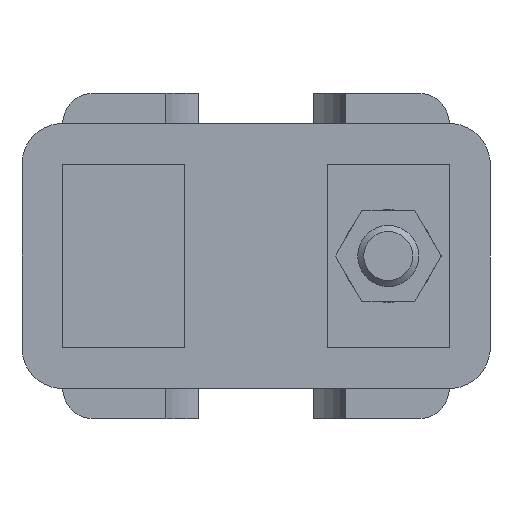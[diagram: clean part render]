
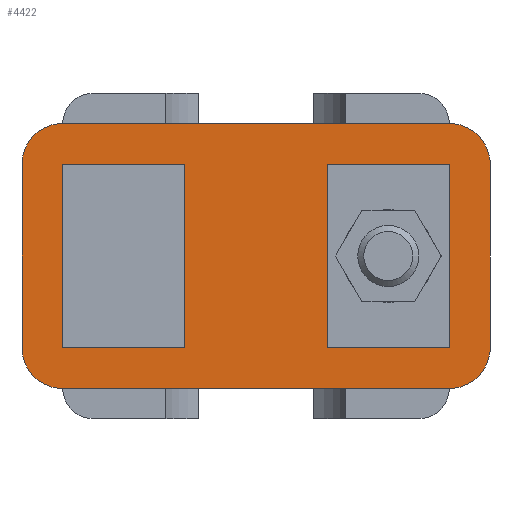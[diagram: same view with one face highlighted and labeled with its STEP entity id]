
A CAD part, front view. The second image highlights one B-rep face of the part: STEP entity #4422.
In plain terms, the highlighted planar face has unit normal (0, -1, 0).
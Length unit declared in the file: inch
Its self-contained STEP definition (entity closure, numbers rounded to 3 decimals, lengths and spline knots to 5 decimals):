
#123=CIRCLE('',#4711,0.25);
#124=CIRCLE('',#4712,0.25);
#125=CIRCLE('',#4713,0.25);
#126=CIRCLE('',#4714,0.25);
#274=ORIENTED_EDGE('',*,*,#1610,.F.);
#275=ORIENTED_EDGE('',*,*,#1611,.T.);
#276=ORIENTED_EDGE('',*,*,#1612,.F.);
#277=ORIENTED_EDGE('',*,*,#1613,.F.);
#278=ORIENTED_EDGE('',*,*,#1614,.F.);
#279=ORIENTED_EDGE('',*,*,#1615,.F.);
#280=ORIENTED_EDGE('',*,*,#1616,.F.);
#281=ORIENTED_EDGE('',*,*,#1617,.F.);
#282=ORIENTED_EDGE('',*,*,#1618,.T.);
#283=ORIENTED_EDGE('',*,*,#1619,.T.);
#284=ORIENTED_EDGE('',*,*,#1620,.F.);
#285=ORIENTED_EDGE('',*,*,#1621,.T.);
#286=ORIENTED_EDGE('',*,*,#1622,.F.);
#287=ORIENTED_EDGE('',*,*,#1623,.T.);
#288=ORIENTED_EDGE('',*,*,#1624,.T.);
#289=ORIENTED_EDGE('',*,*,#1625,.T.);
#1610=EDGE_CURVE('',#2278,#2279,#2727,.T.);
#1611=EDGE_CURVE('',#2278,#2280,#2728,.T.);
#1612=EDGE_CURVE('',#2281,#2280,#2729,.T.);
#1613=EDGE_CURVE('',#2279,#2281,#2730,.T.);
#1614=EDGE_CURVE('',#2282,#2283,#2731,.T.);
#1615=EDGE_CURVE('',#2284,#2282,#2732,.T.);
#1616=EDGE_CURVE('',#2285,#2284,#2733,.T.);
#1617=EDGE_CURVE('',#2283,#2285,#2734,.T.);
#1618=EDGE_CURVE('',#2286,#2287,#2735,.T.);
#1619=EDGE_CURVE('',#2287,#2288,#123,.F.);
#1620=EDGE_CURVE('',#2289,#2288,#2736,.T.);
#1621=EDGE_CURVE('',#2289,#2290,#124,.F.);
#1622=EDGE_CURVE('',#2291,#2290,#2737,.T.);
#1623=EDGE_CURVE('',#2291,#2292,#125,.F.);
#1624=EDGE_CURVE('',#2292,#2293,#2738,.T.);
#1625=EDGE_CURVE('',#2293,#2286,#126,.F.);
#2278=VERTEX_POINT('',#6397);
#2279=VERTEX_POINT('',#6398);
#2280=VERTEX_POINT('',#6400);
#2281=VERTEX_POINT('',#6402);
#2282=VERTEX_POINT('',#6405);
#2283=VERTEX_POINT('',#6406);
#2284=VERTEX_POINT('',#6408);
#2285=VERTEX_POINT('',#6410);
#2286=VERTEX_POINT('',#6413);
#2287=VERTEX_POINT('',#6414);
#2288=VERTEX_POINT('',#6416);
#2289=VERTEX_POINT('',#6418);
#2290=VERTEX_POINT('',#6420);
#2291=VERTEX_POINT('',#6422);
#2292=VERTEX_POINT('',#6424);
#2293=VERTEX_POINT('',#6426);
#2727=LINE('',#6396,#3230);
#2728=LINE('',#6399,#3231);
#2729=LINE('',#6401,#3232);
#2730=LINE('',#6403,#3233);
#2731=LINE('',#6404,#3234);
#2732=LINE('',#6407,#3235);
#2733=LINE('',#6409,#3236);
#2734=LINE('',#6411,#3237);
#2735=LINE('',#6412,#3238);
#2736=LINE('',#6417,#3239);
#2737=LINE('',#6421,#3240);
#2738=LINE('',#6425,#3241);
#3230=VECTOR('',#5107,39.37008);
#3231=VECTOR('',#5108,39.37008);
#3232=VECTOR('',#5109,39.37008);
#3233=VECTOR('',#5110,39.37008);
#3234=VECTOR('',#5111,39.37008);
#3235=VECTOR('',#5112,39.37008);
#3236=VECTOR('',#5113,39.37008);
#3237=VECTOR('',#5114,39.37008);
#3238=VECTOR('',#5115,39.37008);
#3239=VECTOR('',#5118,39.37008);
#3240=VECTOR('',#5121,39.37008);
#3241=VECTOR('',#5124,39.37008);
#3733=EDGE_LOOP('',(#274,#275,#276,#277));
#3734=EDGE_LOOP('',(#278,#279,#280,#281));
#3735=EDGE_LOOP('',(#282,#283,#284,#285,#286,#287,#288,#289));
#3992=FACE_BOUND('',#3733,.T.);
#3993=FACE_BOUND('',#3734,.T.);
#3994=FACE_BOUND('',#3735,.T.);
#4251=PLANE('',#4710);
#4422=ADVANCED_FACE('',(#3992,#3993,#3994),#4251,.F.);
#4710=AXIS2_PLACEMENT_3D('',#6395,#5105,#5106);
#4711=AXIS2_PLACEMENT_3D('',#6415,#5116,#5117);
#4712=AXIS2_PLACEMENT_3D('',#6419,#5119,#5120);
#4713=AXIS2_PLACEMENT_3D('',#6423,#5122,#5123);
#4714=AXIS2_PLACEMENT_3D('',#6427,#5125,#5126);
#5105=DIRECTION('',(0.,1.,0.));
#5106=DIRECTION('',(0.,0.,1.));
#5107=DIRECTION('',(0.,0.,-1.));
#5108=DIRECTION('',(1.,0.,0.));
#5109=DIRECTION('',(0.,0.,1.));
#5110=DIRECTION('',(1.,0.,0.));
#5111=DIRECTION('',(1.,0.,0.));
#5112=DIRECTION('',(0.,0.,-1.));
#5113=DIRECTION('',(-1.,0.,0.));
#5114=DIRECTION('',(0.,0.,1.));
#5115=DIRECTION('',(0.,0.,-1.));
#5116=DIRECTION('',(0.,1.,0.));
#5117=DIRECTION('',(0.,0.,1.));
#5118=DIRECTION('',(-1.,0.,0.));
#5119=DIRECTION('',(0.,1.,0.));
#5120=DIRECTION('',(0.,0.,1.));
#5121=DIRECTION('',(0.,0.,-1.));
#5122=DIRECTION('',(0.,1.,0.));
#5123=DIRECTION('',(0.,0.,1.));
#5124=DIRECTION('',(-1.,0.,0.));
#5125=DIRECTION('',(0.,1.,0.));
#5126=DIRECTION('',(0.,0.,1.));
#6395=CARTESIAN_POINT('',(2.875,0.,0.8125));
#6396=CARTESIAN_POINT('',(1.875,0.,0.8125));
#6397=CARTESIAN_POINT('',(1.875,0.,0.5625));
#6398=CARTESIAN_POINT('',(1.875,0.,-0.5625));
#6399=CARTESIAN_POINT('',(2.875,0.,0.5625));
#6400=CARTESIAN_POINT('',(2.625,0.,0.5625));
#6401=CARTESIAN_POINT('',(2.625,0.,0.8125));
#6402=CARTESIAN_POINT('',(2.625,0.,-0.5625));
#6403=CARTESIAN_POINT('',(2.875,0.,-0.5625));
#6404=CARTESIAN_POINT('',(2.875,0.,-0.5625));
#6405=CARTESIAN_POINT('',(0.25,0.,-0.5625));
#6406=CARTESIAN_POINT('',(1.,0.,-0.5625));
#6407=CARTESIAN_POINT('',(0.25,0.,0.8125));
#6408=CARTESIAN_POINT('',(0.25,0.,0.5625));
#6409=CARTESIAN_POINT('',(2.875,0.,0.5625));
#6410=CARTESIAN_POINT('',(1.,0.,0.5625));
#6411=CARTESIAN_POINT('',(1.,0.,0.8125));
#6412=CARTESIAN_POINT('',(0.,0.,0.8125));
#6413=CARTESIAN_POINT('',(0.,0.,0.58584));
#6414=CARTESIAN_POINT('',(0.,0.,-0.58584));
#6415=CARTESIAN_POINT('',(0.249,0.,-0.5635));
#6416=CARTESIAN_POINT('',(0.22666,0.,-0.8125));
#6417=CARTESIAN_POINT('',(2.875,0.,-0.8125));
#6418=CARTESIAN_POINT('',(2.64834,0.,-0.8125));
#6419=CARTESIAN_POINT('',(2.626,0.,-0.5635));
#6420=CARTESIAN_POINT('',(2.875,0.,-0.58584));
#6421=CARTESIAN_POINT('',(2.875,0.,0.8125));
#6422=CARTESIAN_POINT('',(2.875,0.,0.58584));
#6423=CARTESIAN_POINT('',(2.626,0.,0.5635));
#6424=CARTESIAN_POINT('',(2.64834,0.,0.8125));
#6425=CARTESIAN_POINT('',(2.875,0.,0.8125));
#6426=CARTESIAN_POINT('',(0.22666,0.,0.8125));
#6427=CARTESIAN_POINT('',(0.249,0.,0.5635));
